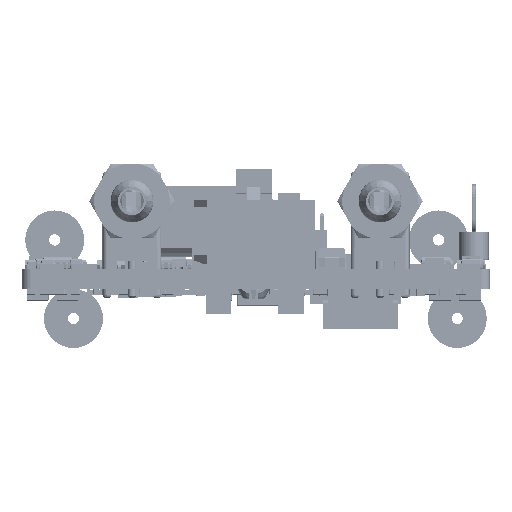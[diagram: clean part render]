
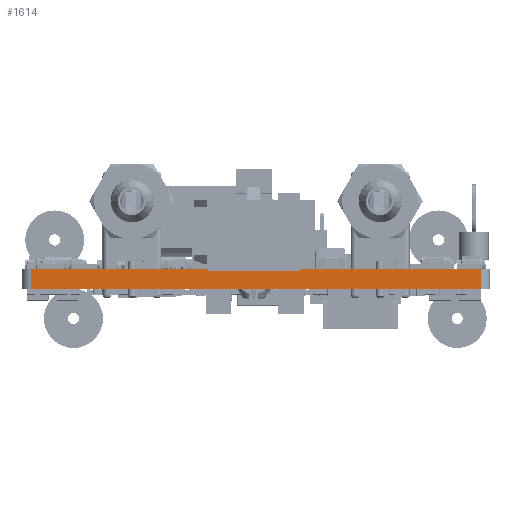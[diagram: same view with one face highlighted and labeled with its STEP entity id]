
A CAD part, left-side view. The second image highlights one B-rep face of the part: STEP entity #1614.
In plain terms, the highlighted planar face has unit normal (-1, 0, 0).
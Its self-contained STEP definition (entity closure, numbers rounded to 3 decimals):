
#1587 = VERTEX_POINT('',#1588);
#1588 = CARTESIAN_POINT('',(25.,74.,2.091));
#1595 = EDGE_CURVE('',#1596,#1587,#1598,.T.);
#1596 = VERTEX_POINT('',#1597);
#1597 = CARTESIAN_POINT('',(25.,74.,0.));
#1598 = LINE('',#1599,#1600);
#1599 = CARTESIAN_POINT('',(25.,74.,0.));
#1600 = VECTOR('',#1601,1.);
#1601 = DIRECTION('',(0.,0.,1.));
#1614 = ADVANCED_FACE('',(#1615),#1640,.F.);
#1615 = FACE_BOUND('',#1616,.F.);
#1616 = EDGE_LOOP('',(#1617,#1618,#1626,#1634));
#1617 = ORIENTED_EDGE('',*,*,#1595,.T.);
#1618 = ORIENTED_EDGE('',*,*,#1619,.T.);
#1619 = EDGE_CURVE('',#1587,#1620,#1622,.T.);
#1620 = VERTEX_POINT('',#1621);
#1621 = CARTESIAN_POINT('',(25.,26.,2.091));
#1622 = LINE('',#1623,#1624);
#1623 = CARTESIAN_POINT('',(25.,74.,2.091));
#1624 = VECTOR('',#1625,1.);
#1625 = DIRECTION('',(0.,-1.,0.));
#1626 = ORIENTED_EDGE('',*,*,#1627,.F.);
#1627 = EDGE_CURVE('',#1628,#1620,#1630,.T.);
#1628 = VERTEX_POINT('',#1629);
#1629 = CARTESIAN_POINT('',(25.,26.,0.));
#1630 = LINE('',#1631,#1632);
#1631 = CARTESIAN_POINT('',(25.,26.,0.));
#1632 = VECTOR('',#1633,1.);
#1633 = DIRECTION('',(0.,0.,1.));
#1634 = ORIENTED_EDGE('',*,*,#1635,.F.);
#1635 = EDGE_CURVE('',#1596,#1628,#1636,.T.);
#1636 = LINE('',#1637,#1638);
#1637 = CARTESIAN_POINT('',(25.,74.,0.));
#1638 = VECTOR('',#1639,1.);
#1639 = DIRECTION('',(0.,-1.,0.));
#1640 = PLANE('',#1641);
#1641 = AXIS2_PLACEMENT_3D('',#1642,#1643,#1644);
#1642 = CARTESIAN_POINT('',(25.,74.,0.));
#1643 = DIRECTION('',(1.,0.,-0.));
#1644 = DIRECTION('',(0.,-1.,0.));
